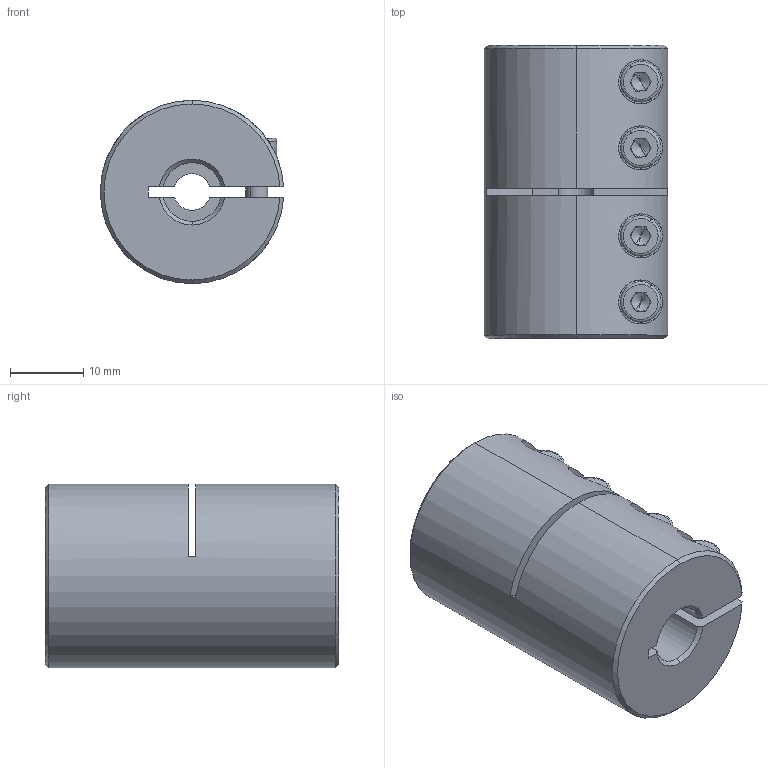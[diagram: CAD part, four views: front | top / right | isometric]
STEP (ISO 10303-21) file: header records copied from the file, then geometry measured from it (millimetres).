
FILE_DESCRIPTION (( 'STEP AP214' ), '1' );
FILE_NAME ('LL-B-D25L40-5-8½¨Ä£.STEP', '2022-07-21T05:03:10', ( '' ), ( '' ), 'SwSTEP 2.0', 'SolidWorks 2022', '' );
FILE_SCHEMA (( 'AUTOMOTIVE_DESIGN' ));
Length unit declared in the file: millimetre
Products named in the file (1): LL-B-D25L40-5-8膘耀
Bounding box: 24.98 x 40 x 25 mm (x, y, z)
Volume: 17020.1 mm3; surface area: 7113.4 mm2
Topology: 1 solids, 1 shells, 178 faces, 455 edges, 287 vertices
Faces by surface type: plane 85, cylinder 65, cone 20, torus 8
Entity records: 5838 total; most frequent: CARTESIAN_POINT 1437, DIRECTION 946, ORIENTED_EDGE 894, EDGE_CURVE 447, AXIS2_PLACEMENT_3D 364, VERTEX_POINT 287, VECTOR 218, LINE 218
